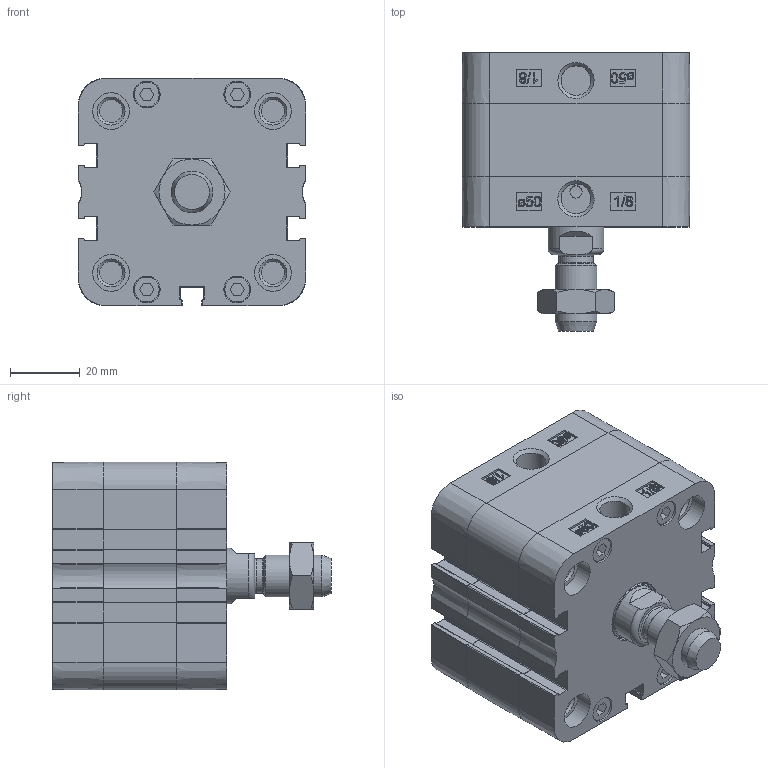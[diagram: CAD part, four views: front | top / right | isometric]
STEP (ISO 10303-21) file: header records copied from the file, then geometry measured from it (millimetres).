
FILE_DESCRIPTION(/* description */ ('Unknown'),/* implementation_level */ '2;1');
FILE_NAME(/* name */ 'ZEF 50_5',/* time_stamp */ '2024-09-11T13:59:42+02:00',/* author */ ('Unknown'),/* organization */ ('Unknown'),/* preprocessor_version */ 'ST-DEVELOPER v16.7',/* originating_system */ 'Solid Edge',/* authorisation */ 'Unknown');
FILE_SCHEMA (('AUTOMOTIVE_DESIGN {1 0 10303 214 3 1 1}'));
Length unit declared in the file: millimetre
Products named in the file (6): ZEF 50_5; Profilrohr; Kolbenstange; Kit_1; Kit_2; Mutter
Assembly tree (5 placements, depth 2):
  ZEF 50_5
    Profilrohr
    Kolbenstange
    Kit_1
    Kit_2
    Mutter
Bounding box: 65.5 x 80 x 65.5 mm (x, y, z)
Volume: 191629.9 mm3; surface area: 55011.4 mm2
Topology: 5 solids, 13 shells, 757 faces, 1968 edges, 1296 vertices
Faces by surface type: plane 344, cylinder 213, bspline 108, cone 47, torus 45
Full cylindrical faces by diameter (mm): 3.5 x1, 5.2 x8, 6.647 x8, 7.5 x8, 7.7 x8, 8.566 x2, 10 x1, 10.5 x8, 10.647 x1, 12 x2, 16 x1, 16.54 x1, 17.7 x1, 18 x1, 20.5 x1, 50 x2
Entity records: 28319 total; most frequent: CARTESIAN_POINT 5962, ORIENTED_EDGE 3678, DIRECTION 3368, EDGE_CURVE 1839, VERTEX_POINT 1267, AXIS2_PLACEMENT_3D 1173, LINE 1022, VECTOR 1022
